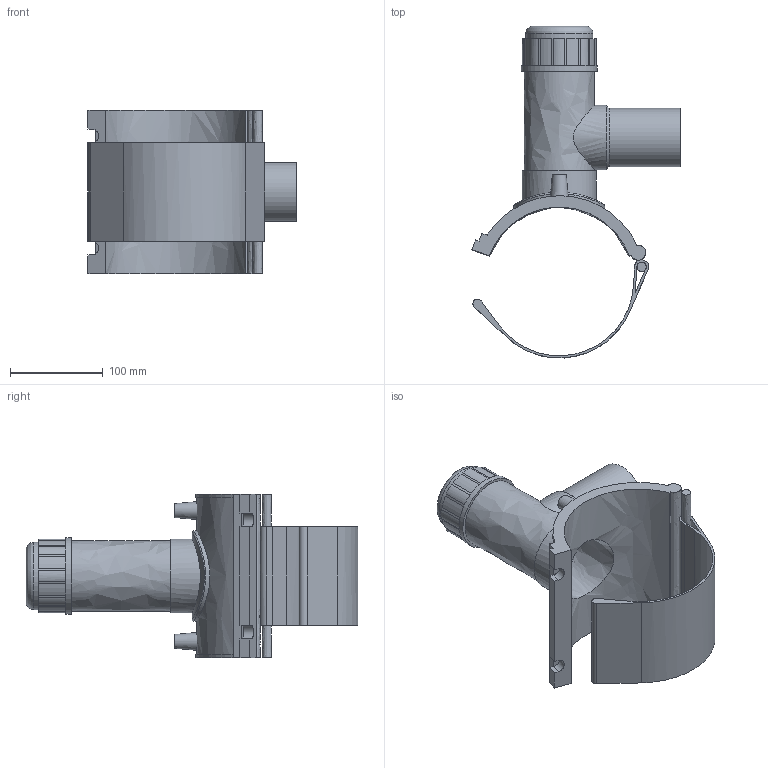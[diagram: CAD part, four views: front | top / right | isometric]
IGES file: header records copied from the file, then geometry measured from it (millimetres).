
Global section: file name: 491304160063; native system: Autodesk Inventor 2019; preprocessor: unknown; author: KIM; date: 20230323.112843; units: millimetre
Bounding box: 223.97 x 357.34 x 176 mm (x, y, z)
Volume: 1009898.7 mm3; surface area: 274449.6 mm2
Topology: 2 solids, 2 shells, 108 faces, 282 edges, 193 vertices
Faces by surface type: bspline 108
